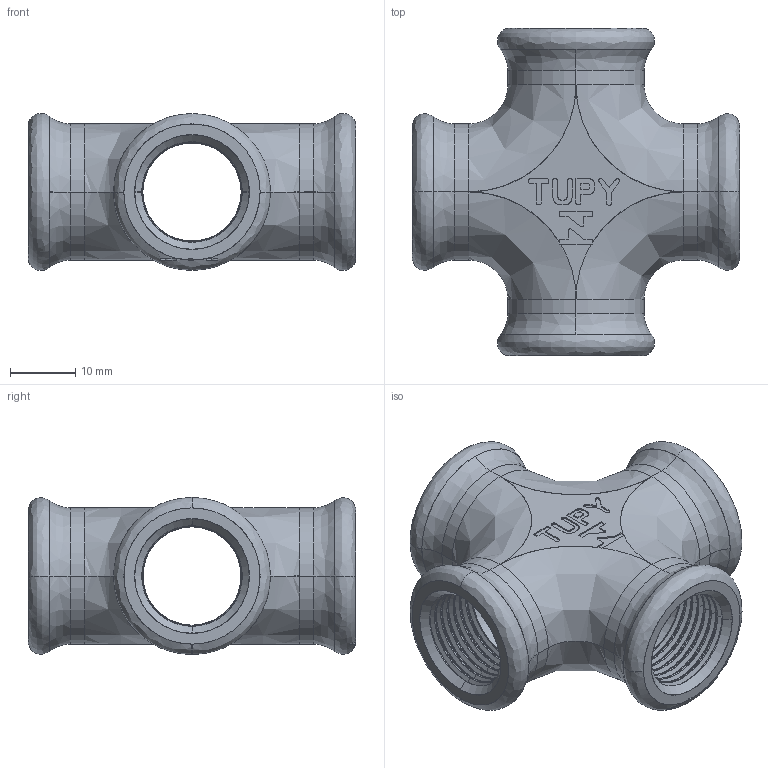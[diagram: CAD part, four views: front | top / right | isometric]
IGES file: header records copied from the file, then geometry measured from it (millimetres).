
Start section: SolidWorks IGES file using analytic representation for surfaces
Global section: file name: C:\Users\Joel Rosa\Desktop\Tubulação\12-18-OK\12-18-003.IGS; native system: SolidWorks 2011; preprocessor: SolidWorks 2011; author: Joel Rosa; date: 121207.003115; units: millimetre
Bounding box: 50 x 50 x 24 mm (x, y, z)
Surface area: 10963.2 mm2 (no closed solid volume)
Topology: 0 solids, 0 shells, 471 faces, 3404 edges, 3404 vertices
Faces by surface type: bspline 317, revolution 154
